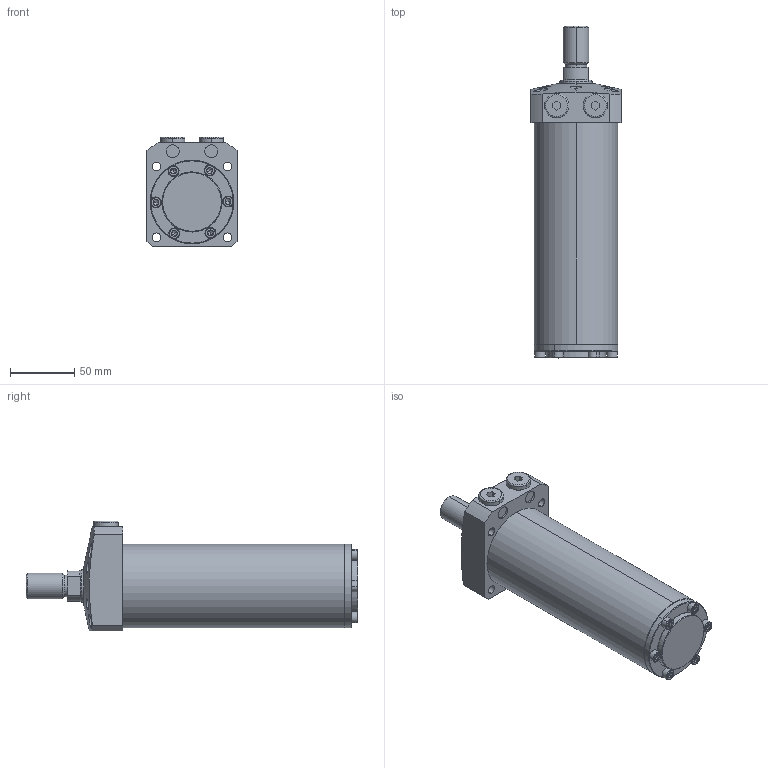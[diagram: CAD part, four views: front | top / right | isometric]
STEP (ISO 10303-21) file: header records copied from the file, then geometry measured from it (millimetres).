
FILE_DESCRIPTION (( 'STEP AP203' ), '1' );
FILE_NAME ('680650-CT-150.step', '2016-11-02T03:26:12', ( 'wxp' ), ( '' ), 'SwSTEP 2.0', 'SolidWorks 2011', '' );
FILE_SCHEMA (( 'CONFIG_CONTROL_DESIGN' ));
Length unit declared in the file: millimetre
Products named in the file (7): 680650-CT-150; 葩璃 680650-CA-150-11^680650-CT-150; 葩璃 68065-CA-51-6^680650-CT-150; 葩璃 68065-CA-51-5^680650-CT-150; 葩璃 68065-CA-51-4^680650-CT-150; 葩璃 68065-CA-51-3^680650-CT-150; 葩璃 68065-CA-150-1^680650-CT-150
Assembly tree (17 placements, depth 2):
  680650-CT-150
    葩璃 680650-CA-150-11^680650-CT-150
    葩璃 68065-CA-51-4^680650-CT-150  x6
    葩璃 68065-CA-51-5^680650-CT-150  x6
    葩璃 68065-CA-51-3^680650-CT-150
    葩璃 68065-CA-150-1^680650-CT-150
    葩璃 68065-CA-51-6^680650-CT-150  x2
Bounding box: 70 x 258 x 85.5 mm (x, y, z)
Volume: 799786.9 mm3; surface area: 98364.3 mm2
Topology: 17 solids, 17 shells, 548 faces, 1034 edges, 541 vertices
Faces by surface type: plane 235, cone 168, cylinder 129, torus 16
Entity records: 7489 total; most frequent: CARTESIAN_POINT 1816, DIRECTION 1071, ORIENTED_EDGE 872, AXIS2_PLACEMENT_3D 447, EDGE_CURVE 436, VERTEX_POINT 259, EDGE_LOOP 255, CIRCLE 215
